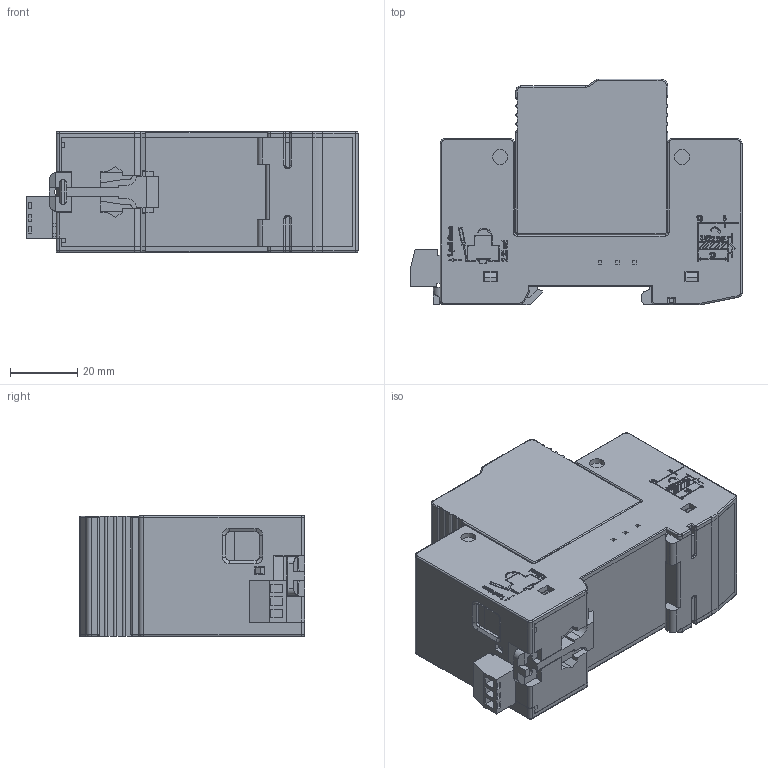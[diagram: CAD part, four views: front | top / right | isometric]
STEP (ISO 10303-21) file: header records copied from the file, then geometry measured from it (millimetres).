
FILE_DESCRIPTION(/* description */ (''),/* implementation_level */ '2;1');
FILE_NAME(/* name */ '3DH-2025',/* time_stamp */ '2025-05-19T15:07:45+08:00',/* author */ (''),/* organization */ (''),/* preprocessor_version */ 'ST-DEVELOPER v9',/* originating_system */ 'EDS PLM SOLUTIONS - UNIGRAPHICS NX 2.0',/* authorisation */ '');
FILE_SCHEMA (('AUTOMOTIVE_DESIGN { 1 0 10303 214 0 1 1 1 }'));
Length unit declared in the file: millimetre
Products named in the file (1): AdmiDDD2hw0p
Bounding box: 99 x 67.2 x 35.9 mm (x, y, z)
Volume: 211052.7 mm3; surface area: 49348.6 mm2
Topology: 7 solids, 18 shells, 1614 faces, 4250 edges, 2771 vertices
Faces by surface type: plane 1167, cylinder 274, extrusion 100, torus 40, bspline 12, sphere 11, cone 10
Full cylindrical faces by diameter (mm): 2.7 x3, 4.4 x2, 4.5 x4, 6 x2, 7.5 x2, 10.8 x2
Entity records: 51621 total; most frequent: CARTESIAN_POINT 11936, ORIENTED_EDGE 8428, DIRECTION 7646, EDGE_CURVE 4214, VECTOR 3394, LINE 3294, VERTEX_POINT 2764, AXIS2_PLACEMENT_3D 2126
